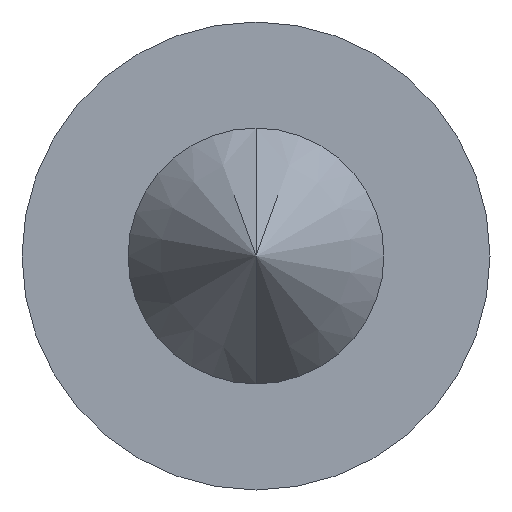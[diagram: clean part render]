
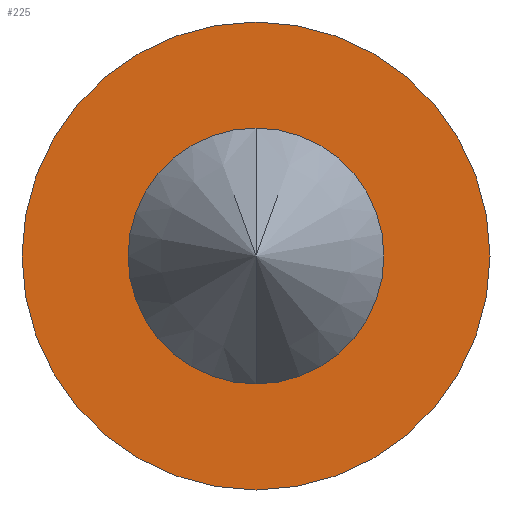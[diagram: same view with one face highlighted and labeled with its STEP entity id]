
A CAD part, front view. The second image highlights one B-rep face of the part: STEP entity #225.
In plain terms, the highlighted planar face has unit normal (0, -1, 0).
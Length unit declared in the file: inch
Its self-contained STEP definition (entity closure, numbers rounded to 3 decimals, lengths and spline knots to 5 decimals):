
#13 = CARTESIAN_POINT ( 'NONE',  ( 0., -0.25084, 0.1975 ) ) ;
#16 = VERTEX_POINT ( 'NONE', #53 ) ;
#20 = VERTEX_POINT ( 'NONE', #13 ) ;
#37 = EDGE_CURVE ( 'NONE', #258, #46, #122, .T. ) ;
#46 = VERTEX_POINT ( 'NONE', #79 ) ;
#53 = CARTESIAN_POINT ( 'NONE',  ( 0., -0.25084, -0.1975 ) ) ;
#56 = DIRECTION ( 'NONE',  ( 0., 0., -1. ) ) ;
#57 = DIRECTION ( 'NONE',  ( 0., -1., 0. ) ) ;
#65 = ORIENTED_EDGE ( 'NONE', *, *, #37, .F. ) ;
#77 = DIRECTION ( 'NONE',  ( 0., 0., -1. ) ) ;
#79 = CARTESIAN_POINT ( 'NONE',  ( 0., -0.25084, 0.108 ) ) ;
#101 = AXIS2_PLACEMENT_3D ( 'NONE', #274, #323, #56 ) ;
#102 = CARTESIAN_POINT ( 'NONE',  ( 0., -0.25084, 0. ) ) ;
#103 = CARTESIAN_POINT ( 'NONE',  ( 0., -0.25084, -0.108 ) ) ;
#107 = AXIS2_PLACEMENT_3D ( 'NONE', #290, #264, #377 ) ;
#111 = EDGE_CURVE ( 'NONE', #46, #258, #371, .T. ) ;
#112 = FACE_BOUND ( 'NONE', #176, .T. ) ;
#122 = CIRCLE ( 'NONE', #107, 0.108 ) ;
#130 = CARTESIAN_POINT ( 'NONE',  ( 0., -0.25084, 0. ) ) ;
#132 = DIRECTION ( 'NONE',  ( 0., 0., -1. ) ) ;
#133 = ORIENTED_EDGE ( 'NONE', *, *, #382, .T. ) ;
#138 = ORIENTED_EDGE ( 'NONE', *, *, #111, .F. ) ;
#168 = AXIS2_PLACEMENT_3D ( 'NONE', #103, #253, #77 ) ;
#176 = EDGE_LOOP ( 'NONE', ( #65, #138 ) ) ;
#217 = CARTESIAN_POINT ( 'NONE',  ( 0., -0.25084, -0.108 ) ) ;
#225 = ADVANCED_FACE ( 'NONE', ( #259, #112 ), #346, .T. ) ;
#252 = AXIS2_PLACEMENT_3D ( 'NONE', #102, #277, #132 ) ;
#253 = DIRECTION ( 'NONE',  ( 0., -1., 0. ) ) ;
#258 = VERTEX_POINT ( 'NONE', #217 ) ;
#259 = FACE_OUTER_BOUND ( 'NONE', #316, .T. ) ;
#264 = DIRECTION ( 'NONE',  ( 0., -1., 0. ) ) ;
#265 = CIRCLE ( 'NONE', #252, 0.1975 ) ;
#272 = CIRCLE ( 'NONE', #101, 0.1975 ) ;
#274 = CARTESIAN_POINT ( 'NONE',  ( 0., -0.25084, 0. ) ) ;
#277 = DIRECTION ( 'NONE',  ( 0., -1., 0. ) ) ;
#289 = AXIS2_PLACEMENT_3D ( 'NONE', #130, #57, #299 ) ;
#290 = CARTESIAN_POINT ( 'NONE',  ( 0., -0.25084, 0. ) ) ;
#299 = DIRECTION ( 'NONE',  ( 0., 0., -1. ) ) ;
#309 = EDGE_CURVE ( 'NONE', #20, #16, #272, .T. ) ;
#316 = EDGE_LOOP ( 'NONE', ( #133, #379 ) ) ;
#323 = DIRECTION ( 'NONE',  ( 0., -1., 0. ) ) ;
#346 = PLANE ( 'NONE',  #168 ) ;
#371 = CIRCLE ( 'NONE', #289, 0.108 ) ;
#377 = DIRECTION ( 'NONE',  ( 0., 0., -1. ) ) ;
#379 = ORIENTED_EDGE ( 'NONE', *, *, #309, .T. ) ;
#382 = EDGE_CURVE ( 'NONE', #16, #20, #265, .T. ) ;
